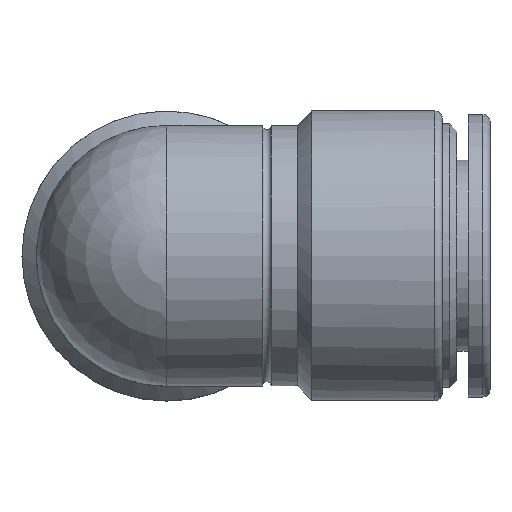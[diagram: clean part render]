
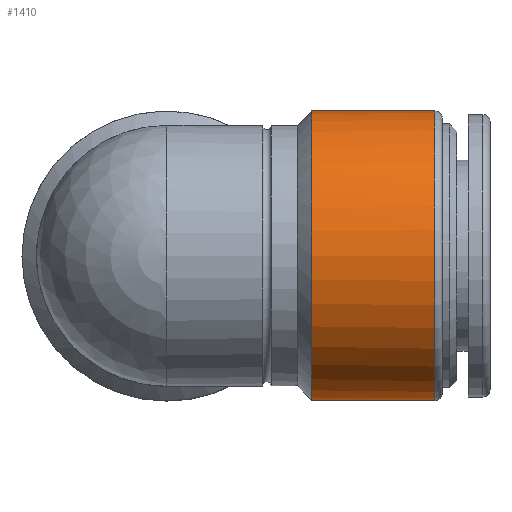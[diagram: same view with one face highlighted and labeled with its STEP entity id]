
A CAD part, top view. The second image highlights one B-rep face of the part: STEP entity #1410.
In plain terms, the highlighted cylindrical face has radius 10 mm (diameter 20 mm), a full revolution.
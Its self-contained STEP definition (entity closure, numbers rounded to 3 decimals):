
#1193=CARTESIAN_POINT('',(12.,-0.75,-9.972));
#1194=VERTEX_POINT('',#1193);
#1201=CARTESIAN_POINT('',(10.0,-0.75,-9.972));
#1202=VERTEX_POINT('',#1201);
#1203=CARTESIAN_POINT('',(10.0,-0.75,-9.972));
#1204=DIRECTION('',(1.0,0.0,0.0));
#1205=VECTOR('',#1204,2.);
#1206=LINE('',#1203,#1205);
#1207=EDGE_CURVE('',#1202,#1194,#1206,.T.);
#1251=CARTESIAN_POINT('',(12.,0.0,-10.0));
#1252=VERTEX_POINT('',#1251);
#1284=CARTESIAN_POINT('',(10.0,0.75,-9.972));
#1285=VERTEX_POINT('',#1284);
#1299=CARTESIAN_POINT('',(12.,0.75,-9.972));
#1300=VERTEX_POINT('',#1299);
#1301=CARTESIAN_POINT('',(12.,0.75,-9.972));
#1302=DIRECTION('',(-1.0,0.0,0.0));
#1303=VECTOR('',#1302,2.);
#1304=LINE('',#1301,#1303);
#1305=EDGE_CURVE('',#1300,#1285,#1304,.T.);
#1352=CARTESIAN_POINT('',(12.,0.0,0.0));
#1353=DIRECTION('',(1.0,0.0,0.0));
#1354=DIRECTION('',(0.0,0.0,1.0));
#1355=AXIS2_PLACEMENT_3D('',#1352,#1353,#1354);
#1356=CIRCLE('',#1355,10.0);
#1357=EDGE_CURVE('',#1252,#1300,#1356,.T.);
#1369=CARTESIAN_POINT('',(12.,0.0,0.0));
#1370=DIRECTION('',(1.0,0.0,0.0));
#1371=DIRECTION('',(0.0,0.0,1.0));
#1372=AXIS2_PLACEMENT_3D('',#1369,#1370,#1371);
#1373=CIRCLE('',#1372,10.0);
#1374=EDGE_CURVE('',#1194,#1252,#1373,.T.);
#1381=CARTESIAN_POINT('',(9.0,0.0,0.0));
#1382=DIRECTION('',(1.0,0.0,0.0));
#1383=DIRECTION('',(0.0,0.0,1.0));
#1384=AXIS2_PLACEMENT_3D('',#1381,#1382,#1383);
#1385=CYLINDRICAL_SURFACE('',#1384,10.0);
#1386=CARTESIAN_POINT('',(18.5,0.,-10.0));
#1387=VERTEX_POINT('',#1386);
#1388=CARTESIAN_POINT('',(18.5,0.0,0.0));
#1389=DIRECTION('',(1.0,0.0,0.0));
#1390=DIRECTION('',(0.0,0.0,1.0));
#1391=AXIS2_PLACEMENT_3D('',#1388,#1389,#1390);
#1392=CIRCLE('',#1391,10.0);
#1393=EDGE_CURVE('',#1387,#1387,#1392,.T.);
#1394=ORIENTED_EDGE('',*,*,#1393,.F.);
#1395=EDGE_LOOP('',(#1394));
#1396=FACE_OUTER_BOUND('',#1395,.T.);
#1397=ORIENTED_EDGE('',*,*,#1207,.T.);
#1398=ORIENTED_EDGE('',*,*,#1374,.T.);
#1399=ORIENTED_EDGE('',*,*,#1357,.T.);
#1400=ORIENTED_EDGE('',*,*,#1305,.T.);
#1401=CARTESIAN_POINT('',(10.0,0.0,0.0));
#1402=DIRECTION('',(-1.0,0.0,0.0));
#1403=DIRECTION('',(0.0,0.0,1.0));
#1404=AXIS2_PLACEMENT_3D('',#1401,#1402,#1403);
#1405=CIRCLE('',#1404,10.0);
#1406=EDGE_CURVE('',#1202,#1285,#1405,.T.);
#1407=ORIENTED_EDGE('',*,*,#1406,.F.);
#1408=EDGE_LOOP('',(#1397,#1398,#1399,#1400,#1407));
#1409=FACE_BOUND('',#1408,.T.);
#1410=ADVANCED_FACE('',(#1396,#1409),#1385,.T.);
